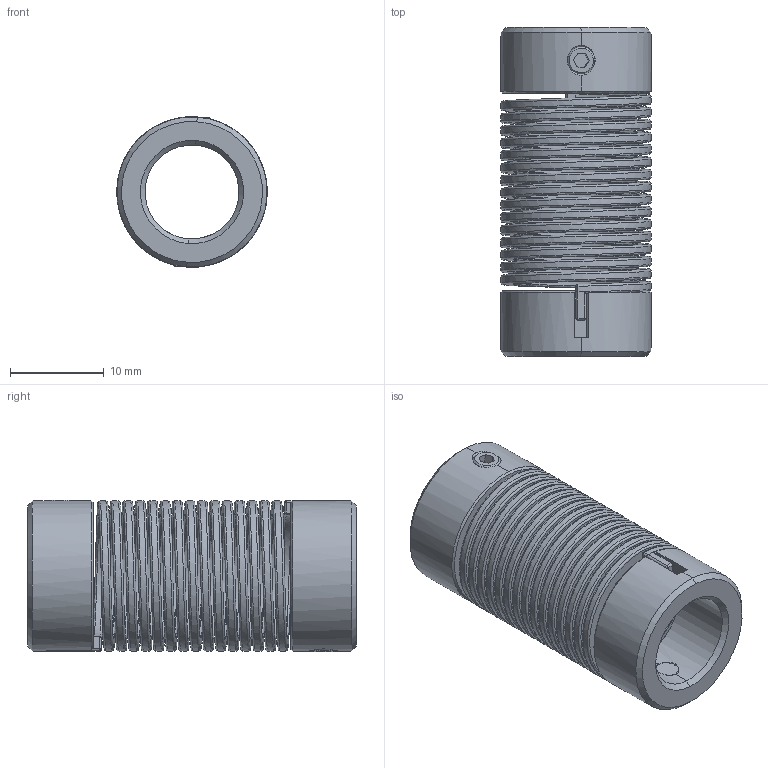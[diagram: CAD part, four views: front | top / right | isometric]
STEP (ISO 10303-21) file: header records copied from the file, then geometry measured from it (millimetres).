
FILE_DESCRIPTION (( 'STEP AP214' ), '1' );
FILE_NAME ('9402_10_10.STEP', '2024-05-28T11:46:56', ( '' ), ( '' ), 'SwSTEP 2.0', 'SolidWorks 2019', '' );
FILE_SCHEMA (( 'AUTOMOTIVE_DESIGN' ));
Length unit declared in the file: millimetre
Products named in the file (1): 9402_10_10
Bounding box: 16 x 35 x 16.14 mm (x, y, z)
Volume: 2712.3 mm3; surface area: 5064.3 mm2
Topology: 5 solids, 5 shells, 128 faces, 303 edges, 174 vertices
Faces by surface type: plane 37, cylinder 30, bspline 25, cone 22, torus 8, sphere 6
Entity records: 13736 total; most frequent: CARTESIAN_POINT 9583, ORIENTED_EDGE 588, DIRECTION 505, EDGE_CURVE 294, AXIS2_PLACEMENT_3D 193, VERTEX_POINT 174, UNCERTAINTY_MEASURE_WITH_UNIT 135, PRESENTATION_LAYER_ASSIGNMENT 134
